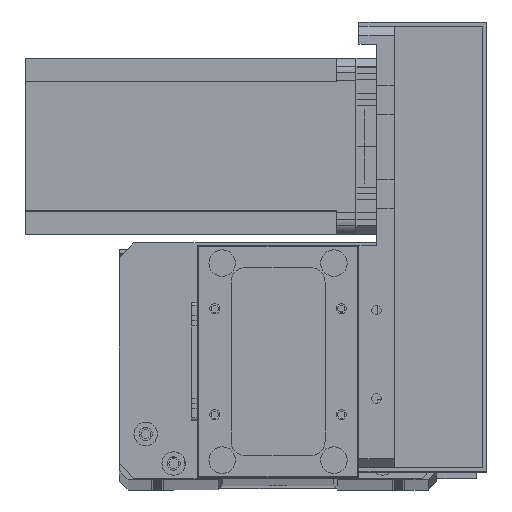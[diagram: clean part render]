
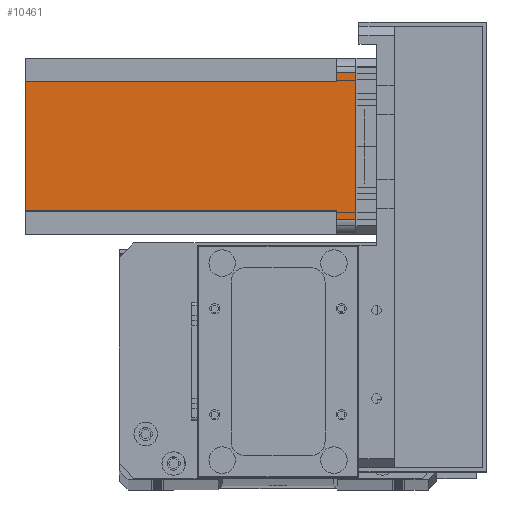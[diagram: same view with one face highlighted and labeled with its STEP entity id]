
A CAD part, top view. The second image highlights one B-rep face of the part: STEP entity #10461.
In plain terms, the highlighted planar face has unit normal (0, 0, 1) as drawn and (0, 1, 0) by its records, which use the part's own axes.
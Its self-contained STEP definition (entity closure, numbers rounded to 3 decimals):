
#50 = VERTEX_POINT ( 'NONE', #15588 ) ;
#1003 = DIRECTION ( 'NONE',  ( 0., 1., 0. ) ) ;
#1943 = CARTESIAN_POINT ( 'NONE',  ( 55., 60., -112.5 ) ) ;
#2883 = CARTESIAN_POINT ( 'NONE',  ( 52., 60., -6.5 ) ) ;
#3010 = CARTESIAN_POINT ( 'NONE',  ( 8., 60., -6.5 ) ) ;
#3174 = DIRECTION ( 'NONE',  ( 0., 0., 1. ) ) ;
#4284 = EDGE_CURVE ( 'NONE', #23874, #8649, #27436, .T. ) ;
#4507 = DIRECTION ( 'NONE',  ( 0., 0., -1. ) ) ;
#4519 = EDGE_CURVE ( 'NONE', #32796, #30812, #26224, .T. ) ;
#6437 = CARTESIAN_POINT ( 'NONE',  ( 52., 60., -6.5 ) ) ;
#6992 = LINE ( 'NONE', #31991, #20599 ) ;
#8649 = VERTEX_POINT ( 'NONE', #21098 ) ;
#8932 = ORIENTED_EDGE ( 'NONE', *, *, #19210, .F. ) ;
#10461 = ADVANCED_FACE ( 'NONE', ( #29030 ), #13689, .T. ) ;
#10679 = ORIENTED_EDGE ( 'NONE', *, *, #4519, .F. ) ;
#11341 = CARTESIAN_POINT ( 'NONE',  ( 5., 60., 0. ) ) ;
#11433 = CARTESIAN_POINT ( 'NONE',  ( 55., 60., 0. ) ) ;
#12248 = VERTEX_POINT ( 'NONE', #22570 ) ;
#12405 = DIRECTION ( 'NONE',  ( -1., 0., 0. ) ) ;
#12642 = VECTOR ( 'NONE', #31867, 1000. ) ;
#12968 = LINE ( 'NONE', #1943, #25738 ) ;
#13539 = CARTESIAN_POINT ( 'NONE',  ( 52., 60., -112.5 ) ) ;
#13689 = PLANE ( 'NONE',  #19900 ) ;
#14175 = VERTEX_POINT ( 'NONE', #11433 ) ;
#14176 = DIRECTION ( 'NONE',  ( -1., 0., 0. ) ) ;
#14664 = VECTOR ( 'NONE', #20862, 1000. ) ;
#15588 = CARTESIAN_POINT ( 'NONE',  ( 8., 60., -112.5 ) ) ;
#15609 = EDGE_LOOP ( 'NONE', ( #17645, #29447, #10679, #25596, #29050, #8932, #27701, #22624 ) ) ;
#16243 = CARTESIAN_POINT ( 'NONE',  ( 0., 60., -112.5 ) ) ;
#16940 = VECTOR ( 'NONE', #12405, 1000. ) ;
#17240 = CARTESIAN_POINT ( 'NONE',  ( 8., 60., -112.5 ) ) ;
#17307 = DIRECTION ( 'NONE',  ( 0., 0., -1. ) ) ;
#17645 = ORIENTED_EDGE ( 'NONE', *, *, #22059, .F. ) ;
#18837 = DIRECTION ( 'NONE',  ( 0., 0., 1. ) ) ;
#19210 = EDGE_CURVE ( 'NONE', #23874, #50, #23484, .T. ) ;
#19553 = EDGE_CURVE ( 'NONE', #12248, #32796, #27454, .T. ) ;
#19900 = AXIS2_PLACEMENT_3D ( 'NONE', #16243, #1003, #18837 ) ;
#20599 = VECTOR ( 'NONE', #14176, 1000. ) ;
#20687 = VECTOR ( 'NONE', #31377, 1000. ) ;
#20862 = DIRECTION ( 'NONE',  ( -1., 0., 0. ) ) ;
#21035 = CARTESIAN_POINT ( 'NONE',  ( 5., 60., -112.5 ) ) ;
#21098 = CARTESIAN_POINT ( 'NONE',  ( 5., 60., -6.5 ) ) ;
#21225 = EDGE_CURVE ( 'NONE', #8649, #22502, #31326, .T. ) ;
#22059 = EDGE_CURVE ( 'NONE', #14175, #22502, #6992, .T. ) ;
#22131 = LINE ( 'NONE', #27698, #16940 ) ;
#22502 = VERTEX_POINT ( 'NONE', #11341 ) ;
#22570 = CARTESIAN_POINT ( 'NONE',  ( 52., 60., -112.5 ) ) ;
#22624 = ORIENTED_EDGE ( 'NONE', *, *, #21225, .T. ) ;
#23162 = CARTESIAN_POINT ( 'NONE',  ( 55., 60., -6.5 ) ) ;
#23484 = LINE ( 'NONE', #17240, #29453 ) ;
#23631 = EDGE_CURVE ( 'NONE', #12248, #50, #22131, .T. ) ;
#23874 = VERTEX_POINT ( 'NONE', #31135 ) ;
#25348 = VECTOR ( 'NONE', #3174, 1000. ) ;
#25596 = ORIENTED_EDGE ( 'NONE', *, *, #19553, .F. ) ;
#25738 = VECTOR ( 'NONE', #17307, 1000. ) ;
#26224 = LINE ( 'NONE', #6437, #12642 ) ;
#27436 = LINE ( 'NONE', #3010, #14664 ) ;
#27454 = LINE ( 'NONE', #13539, #20687 ) ;
#27698 = CARTESIAN_POINT ( 'NONE',  ( 0., 60., -112.5 ) ) ;
#27701 = ORIENTED_EDGE ( 'NONE', *, *, #4284, .T. ) ;
#29030 = FACE_OUTER_BOUND ( 'NONE', #15609, .T. ) ;
#29050 = ORIENTED_EDGE ( 'NONE', *, *, #23631, .T. ) ;
#29447 = ORIENTED_EDGE ( 'NONE', *, *, #30121, .T. ) ;
#29453 = VECTOR ( 'NONE', #4507, 1000. ) ;
#30121 = EDGE_CURVE ( 'NONE', #14175, #30812, #12968, .T. ) ;
#30812 = VERTEX_POINT ( 'NONE', #23162 ) ;
#31135 = CARTESIAN_POINT ( 'NONE',  ( 8., 60., -6.5 ) ) ;
#31326 = LINE ( 'NONE', #21035, #25348 ) ;
#31377 = DIRECTION ( 'NONE',  ( 0., 0., 1. ) ) ;
#31867 = DIRECTION ( 'NONE',  ( 1., 0., 0. ) ) ;
#31991 = CARTESIAN_POINT ( 'NONE',  ( 0., 60., 0. ) ) ;
#32796 = VERTEX_POINT ( 'NONE', #2883 ) ;
